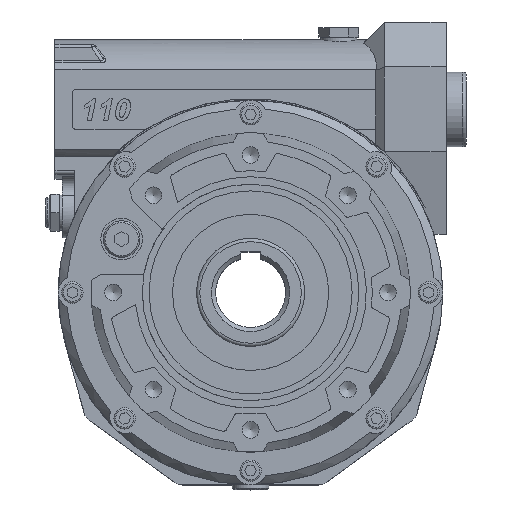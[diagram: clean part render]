
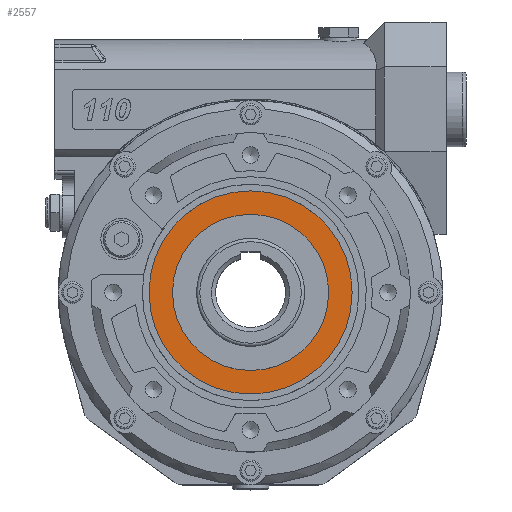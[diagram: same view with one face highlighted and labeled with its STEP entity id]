
A CAD part, top view. The second image highlights one B-rep face of the part: STEP entity #2557.
In plain terms, the highlighted planar face has unit normal (0, 0, 1).
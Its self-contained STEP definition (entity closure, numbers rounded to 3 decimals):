
#2557 = ADVANCED_FACE( '', ( #5468, #5469 ), #5470, .T. );
#5468 = FACE_OUTER_BOUND( '', #9284, .T. );
#5469 = FACE_BOUND( '', #9285, .T. );
#5470 = PLANE( '', #9286 );
#9284 = EDGE_LOOP( '', ( #15787 ) );
#9285 = EDGE_LOOP( '', ( #15788 ) );
#9286 = AXIS2_PLACEMENT_3D( '', #15789, #15790, #15791 );
#15787 = ORIENTED_EDGE( '', *, *, #19273, .T. );
#15788 = ORIENTED_EDGE( '', *, *, #19247, .F. );
#15789 = CARTESIAN_POINT( '', ( 0., 46.9, 70. ) );
#15790 = DIRECTION( '', ( 0., 0., 1. ) );
#15791 = DIRECTION( '', ( 0., 1., 0. ) );
#19247 = EDGE_CURVE( '', #23165, #23165, #23166, .T. );
#19273 = EDGE_CURVE( '', #23196, #23196, #23197, .T. );
#23165 = VERTEX_POINT( '', #29765 );
#23166 = CIRCLE( '', #29766, 46.9 );
#23196 = VERTEX_POINT( '', #29805 );
#23197 = CIRCLE( '', #29806, 61. );
#29765 = CARTESIAN_POINT( '', ( 0., 46.9, 70. ) );
#29766 = AXIS2_PLACEMENT_3D( '', #32922, #32923, #32924 );
#29805 = CARTESIAN_POINT( '', ( 0., 61., 70. ) );
#29806 = AXIS2_PLACEMENT_3D( '', #32946, #32947, #32948 );
#32922 = CARTESIAN_POINT( '', ( 0., 0., 70. ) );
#32923 = DIRECTION( '', ( 0., 0., 1. ) );
#32924 = DIRECTION( '', ( 0., 1., 0. ) );
#32946 = CARTESIAN_POINT( '', ( 0., 0., 70. ) );
#32947 = DIRECTION( '', ( 0., 0., 1. ) );
#32948 = DIRECTION( '', ( 0., 1., 0. ) );
